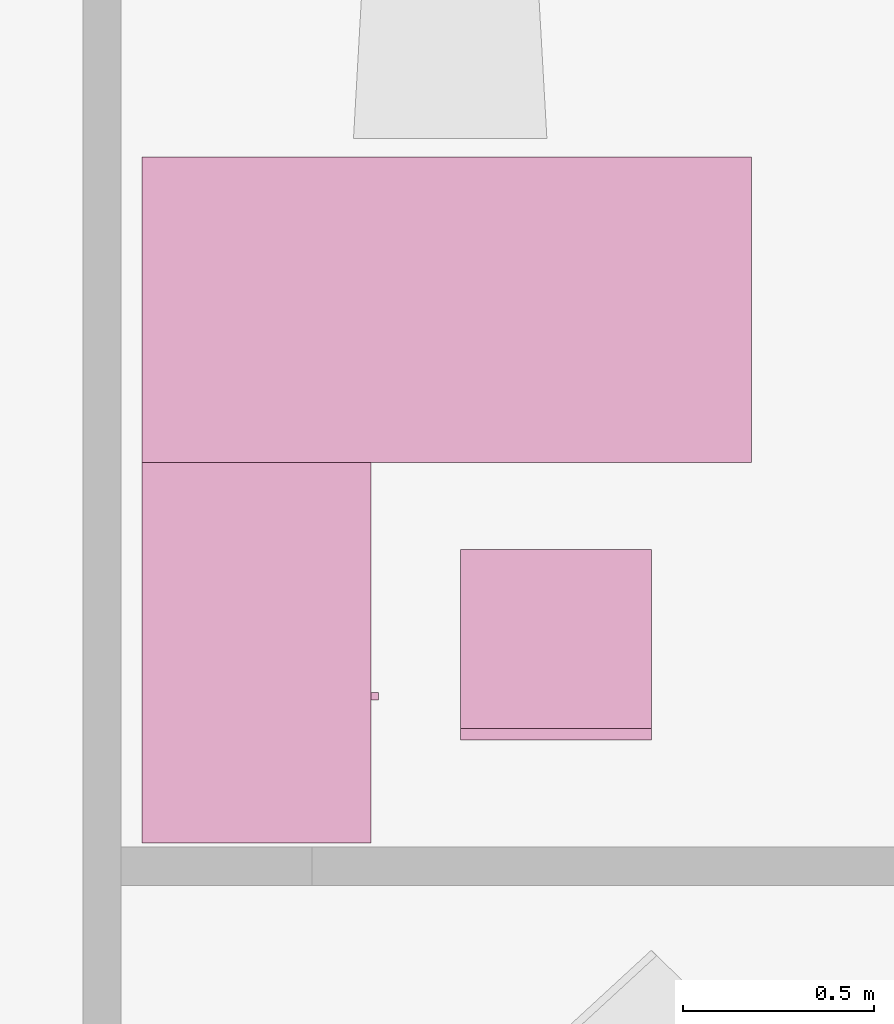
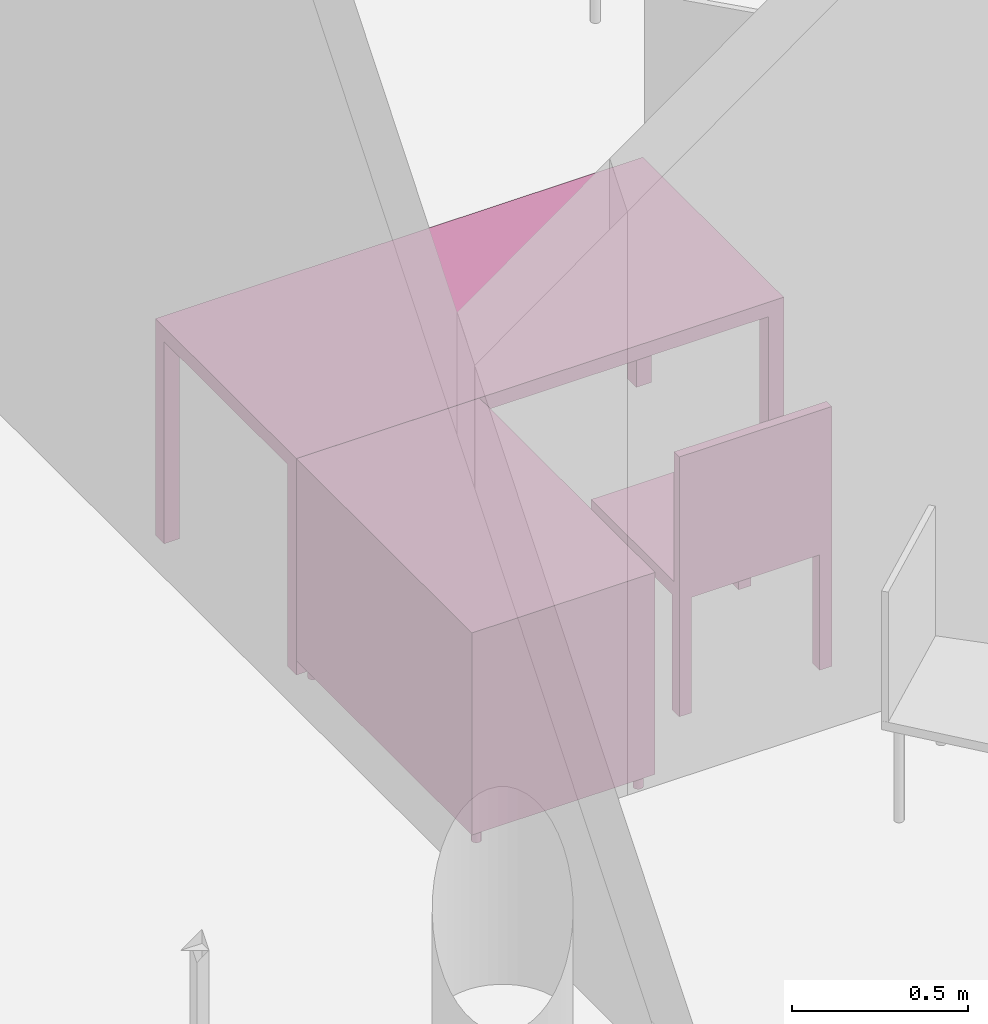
"""IFC4 building model written with IfcOpenShell, lengths in metres."""

import ifcopenshell
import ifcopenshell.guid

model = None  # the IFC model being written
_history = None  # IfcOwnerHistory: only IFC2X3 demands one
_inside = {}  # id of a spatial element -> (the spatial element, [elements in it])
_under = {}  # id of a project, library or spatial element -> (it, [spatial elements below it])
_declared = {}  # id of a project -> (the project, [libraries it declares])
_typed = {}  # id of a type object -> (the type object, [elements of that type])
_made_of = {}  # id of a material, layer set ... -> (it, [elements and type objects made of it])


def new_model(schema):
    """Start an empty IFC model of exactly this schema.

    Asked for "IFC4X3", IfcOpenShell would pick the latest addendum, in which some entities
    have other attributes; the version numbers below select the first issue.
    IFC2X3 requires an IfcOwnerHistory on every rooted entity: one is made here for all.
    """
    global model, _history
    if schema == "IFC4X3":
        model = ifcopenshell.file(schema_version=(4, 3, 0, 0))
    else:
        model = ifcopenshell.file(schema=schema)
    _inside.clear()
    _under.clear()
    _declared.clear()
    _typed.clear()
    _made_of.clear()
    _history = None
    if model.schema == "IFC2X3":
        org = make("IfcOrganization", Name="unknown")
        user = make(
            "IfcPersonAndOrganization",
            ThePerson=make("IfcPerson", FamilyName="unknown"),
            TheOrganization=org,
        )
        app = make(
            "IfcApplication",
            ApplicationDeveloper=org,
            Version="unknown",
            ApplicationFullName="unknown",
            ApplicationIdentifier="unknown",
        )
        _history = make(
            "IfcOwnerHistory",
            OwningUser=user,
            OwningApplication=app,
            ChangeAction="ADDED",
            CreationDate=0,
        )
    return model


def make(cls, **values):
    """One entity of the class cls with the attributes given. An attribute that is None is left unset."""
    return model.create_entity(
        cls, **{name: value for name, value in values.items() if value is not None}
    )


def entity(cls, *values):
    """Any entity or typed value of the class cls, its attributes in the order of the schema. None: left unset."""
    e = model.create_entity(cls)
    for i, value in enumerate(values):
        if value is not None:
            e[i] = value
    return e


def rooted(cls, **values):
    """An entity with a GlobalId (a new one), such as an element, a storey or a relation."""
    return make(cls, GlobalId=ifcopenshell.guid.new(), OwnerHistory=_history, **values)


def si_unit(unit_type, name, prefix=None):
    """IfcSIUnit, for example si_unit("LENGTHUNIT", "METRE", prefix="MILLI")."""
    return make("IfcSIUnit", UnitType=unit_type, Prefix=prefix, Name=name)


def converted_unit(unit_type, name, factor, base, dimensions=None, offset=None):
    """IfcConversionBasedUnit, such as the inch: factor (a typed value) times the base unit."""
    return make(
        "IfcConversionBasedUnit"
        if offset is None
        else "IfcConversionBasedUnitWithOffset",
        ConversionOffset=offset,
        Dimensions=None
        if dimensions is None
        else entity("IfcDimensionalExponents", *dimensions),
        UnitType=unit_type,
        Name=name,
        ConversionFactor=make(
            "IfcMeasureWithUnit", ValueComponent=factor, UnitComponent=base
        ),
    )


def derived_unit(unit_type, elements):
    """IfcDerivedUnit: a product of units, each with its exponent."""
    return make(
        "IfcDerivedUnit",
        Elements=[
            make("IfcDerivedUnitElement", Unit=unit, Exponent=power)
            for unit, power in elements
        ],
        UnitType=unit_type,
    )


def assignment(units):
    """IfcUnitAssignment: the units of a project."""
    return None if units is None else make("IfcUnitAssignment", Units=units)


def point(xyz):
    """IfcCartesianPoint."""
    return None if xyz is None else make("IfcCartesianPoint", Coordinates=xyz)


def direction(xyz):
    """IfcDirection."""
    return None if xyz is None else make("IfcDirection", DirectionRatios=xyz)


def frame(location, z_axis=None, x_axis=None):
    """IfcAxis2Placement3D, a coordinate frame: its origin and axes. An axis left out is left unset."""
    return make(
        "IfcAxis2Placement3D",
        Location=point(location),
        Axis=direction(z_axis),
        RefDirection=direction(x_axis),
    )


def origin():
    """The frame at (0, 0, 0) with its axes left unset."""
    return frame((0.0, 0.0, 0.0))


def place(relative_to, where):
    """IfcLocalPlacement: puts the frame where relative to a parent placement (None: the world)."""
    return make(
        "IfcLocalPlacement", PlacementRelTo=relative_to, RelativePlacement=where
    )


def context(
    kind, dimensions, precision=None, world=None, true_north=None, identifier=None
):
    """IfcGeometricRepresentationContext, for example the 3D "Model" context."""
    return make(
        "IfcGeometricRepresentationContext",
        ContextIdentifier=identifier,
        ContextType=kind,
        CoordinateSpaceDimension=dimensions,
        Precision=precision,
        WorldCoordinateSystem=world,
        TrueNorth=true_north,
    )


def subcontext(parent, identifier, kind, view, scale=None):
    """IfcGeometricRepresentationSubContext, for example "Body" below "Model"."""
    return make(
        "IfcGeometricRepresentationSubContext",
        ContextIdentifier=identifier,
        ContextType=kind,
        ParentContext=parent,
        TargetScale=scale,
        TargetView=view,
    )


def project(units=None, contexts=None):
    """IfcProject with its units and contexts."""
    return rooted(
        "IfcProject",
        Name="project",
        RepresentationContexts=contexts,
        UnitsInContext=assignment(units),
    )


def spatial(cls, under=None, at=None, **own):
    """A site, building, storey or space (cls), placed at a placement, below another one or the project."""
    s = rooted(cls, ObjectPlacement=at, **own)
    if under is not None:
        _under.setdefault(under.id(), (under, []))[1].append(s)
    return s


def faces_of(points, faces, orient=None, outer=None):
    """IfcFace entities. A face is a list of loops; a loop is a list of indices into points, from 0.

    orient and outer hold one flag for each loop. By default every Orientation is true, the
    first loop of a face is its IfcFaceOuterBound and the others are IfcFaceBound.
    """
    made = []
    for i, loops in enumerate(faces):
        bounds = []
        for j, loop in enumerate(loops):
            is_outer = j == 0 if outer is None else outer[i][j]
            bounds.append(
                make(
                    "IfcFaceOuterBound" if is_outer else "IfcFaceBound",
                    Bound=make("IfcPolyLoop", Polygon=[points[k] for k in loop]),
                    Orientation=True if orient is None else orient[i][j],
                )
            )
        made.append(make("IfcFace", Bounds=bounds))
    return made


def faceted_brep(points, faces, orient=None, outer=None, voids=None):
    """IfcFacetedBrep: a solid bounded by flat faces; with voids (closed shells), ...WithVoids."""
    shared = [point(p) for p in points]
    hull = make("IfcClosedShell", CfsFaces=faces_of(shared, faces, orient, outer))
    if voids is None:
        return make("IfcFacetedBrep", Outer=hull)
    return make(
        "IfcFacetedBrepWithVoids",
        Outer=hull,
        Voids=[
            make(cls, CfsFaces=faces_of(shared, fs, o, b)) for cls, fs, o, b in voids
        ],
    )


def shape(context_of_items, identifier, shape_type, items):
    """IfcShapeRepresentation: the items that make up one representation, for example the "Body"."""
    return make(
        "IfcShapeRepresentation",
        ContextOfItems=context_of_items,
        RepresentationIdentifier=identifier,
        RepresentationType=shape_type,
        Items=items,
    )


def made_of(thing, what):
    """Note that an element or type object is made of a material, layer set ...; save() writes the relation."""
    if what is not None:
        _made_of.setdefault(what.id(), (what, []))[1].append(thing)
    return thing


def element(
    cls,
    number,
    at=None,
    inside=None,
    cuts=None,
    type_object=None,
    material=None,
    context=None,
    identifier="Body",
    shape_type=None,
    held_by="IfcProductDefinitionShape",
    body=None,
    shapes=None,
    **own,
):
    """One element of the class cls, such as IfcWall. Its Tag is "e" and its number.

    at: its placement. inside: the storey or other place that contains it. cuts: it is an
    opening in that element (IfcRelVoidsElement). A single representation is given by context,
    identifier, shape_type and body (its items); several are given by shapes. held_by: the class
    of the entity that holds the representations. save() writes the other relations.
    """
    e = rooted(cls, Tag="e%d" % number, ObjectPlacement=at, **own)
    if body is not None:
        shapes = [shape(context, identifier, shape_type, body)]
    if shapes is not None:
        e.Representation = make(held_by, Representations=shapes)
    if inside is not None:
        _inside.setdefault(inside.id(), (inside, []))[1].append(e)
    if cuts is not None:
        rooted(
            "IfcRelVoidsElement", RelatingBuildingElement=cuts, RelatedOpeningElement=e
        )
    if type_object is not None:
        _typed.setdefault(type_object.id(), (type_object, []))[1].append(e)
    return made_of(e, material)


def aggregate(whole, parts):
    """IfcRelAggregates: a whole, such as a stair, and the parts it consists of."""
    return rooted("IfcRelAggregates", RelatingObject=whole, RelatedObjects=parts)


def save(model, path):
    """Write the relations noted so far, then the file.

    IfcRelAggregates (storeys below a building ...), IfcRelContainedInSpatialStructure (elements
    in a storey), IfcRelDefinesByType, IfcRelAssociatesMaterial and IfcRelDeclares: one each for
    every whole, place, type object, material and project.
    """
    for whole, parts in _under.values():
        aggregate(whole, parts)
    for where, things in _inside.values():
        rooted(
            "IfcRelContainedInSpatialStructure",
            RelatedElements=things,
            RelatingStructure=where,
        )
    for kind, things in _typed.values():
        rooted("IfcRelDefinesByType", RelatedObjects=things, RelatingType=kind)
    for what, things in _made_of.values():
        rooted("IfcRelAssociatesMaterial", RelatedObjects=things, RelatingMaterial=what)
    for by, libraries in _declared.values():
        rooted("IfcRelDeclares", RelatingContext=by, RelatedDefinitions=libraries)
    model.write(path)


model = new_model("IFC4")

# Units and contexts
model_context = context("Model", 3, precision=1e-05, world=origin())
body_context = subcontext(model_context, "Body", "Model", "MODEL_VIEW")
ifc_project = project(units=[si_unit("LENGTHUNIT", "METRE"), si_unit("AREAUNIT", "SQUARE_METRE"), si_unit("VOLUMEUNIT", "CUBIC_METRE"), si_unit("MASSUNIT", "GRAM", prefix="KILO"), converted_unit("PLANEANGLEUNIT", "DEGREE", entity("IfcPlaneAngleMeasure", 0.0174532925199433), si_unit("PLANEANGLEUNIT", "RADIAN"), dimensions=[0, 0, 0, 0, 0, 0, 0]), derived_unit("THERMALTRANSMITTANCEUNIT", [(si_unit("POWERUNIT", "WATT"), 1), (si_unit("THERMODYNAMICTEMPERATUREUNIT", "KELVIN"), -1), (si_unit("LENGTHUNIT", "METRE"), -2)]), derived_unit("VOLUMETRICFLOWRATEUNIT", [(si_unit("LENGTHUNIT", "METRE"), 3), (converted_unit("TIMEUNIT", "hour", entity("IfcTimeMeasure", 3600.0), si_unit("TIMEUNIT", "SECOND"), dimensions=[0, 0, 1, 0, 0, 0, 0]), -1), (si_unit("LENGTHUNIT", "METRE"), -1)])], contexts=[model_context])

# Building, storeys
building_placement = place(None, origin())
building = spatial("IfcBuilding", under=ifc_project, at=building_placement, Name="HABITATGE PLURIFAMILIAR", CompositionType="ELEMENT")
storey_1_placement = place(building_placement, frame((0.0, 0.0, 12.27)))
storey_1 = spatial("IfcBuildingStorey", under=building, at=storey_1_placement, Name="PLANTA TERCERA", CompositionType="ELEMENT", Elevation=12.27)
storey_2_placement = place(storey_1_placement, frame((0.0, 0.0, 9.26)))
storey_2 = spatial("IfcBuildingStorey", under=storey_1, at=storey_2_placement, Name="NOU", CompositionType="PARTIAL")

# Furniture
furniture_1_placement = place(storey_2_placement, frame((421.420628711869, 19.7128360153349, -9.3599999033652)))
element("IfcFurniture", 1, at=furniture_1_placement, inside=storey_2, Name="Taula 160X80_P3", context=body_context, shape_type="Brep", body=[
    faceted_brep([(1.546945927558, 0.750069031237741, 0.0), (1.596945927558, 0.750069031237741, 0.0), (1.596945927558, 0.800069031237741, 0.0), (1.546945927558, 0.800069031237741, 0.0), (1.546945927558, 0.800069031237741, 0.7), (1.596945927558, 0.800069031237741, 0.7), (1.596945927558, 0.750069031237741, 0.7), (1.546945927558, 0.750069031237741, 0.7)], [[[0, 1, 2, 3]], [[4, 5, 6, 7]], [[3, 4, 7, 0]], [[2, 5, 4, 3]], [[1, 6, 5, 2]], [[0, 7, 6, 1]]], orient=[[False], [False], [False], [False], [False], [False]]),
    faceted_brep([(1.546945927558, 0.0, 0.0), (1.596945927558, 0.0, 0.0), (1.596945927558, 0.05, 0.0), (1.546945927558, 0.05, 0.0), (1.546945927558, 0.05, 0.7), (1.596945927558, 0.05, 0.7), (1.596945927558, 0.0, 0.7), (1.546945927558, 0.0, 0.7)], [[[0, 1, 2, 3]], [[4, 5, 6, 7]], [[3, 4, 7, 0]], [[2, 5, 4, 3]], [[1, 6, 5, 2]], [[0, 7, 6, 1]]], orient=[[False], [False], [False], [False], [False], [False]]),
    faceted_brep([(0.0, 0.0, 0.7), (1.596945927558, 0.0, 0.7), (1.596945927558, 0.800069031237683, 0.7), (0.0, 0.800069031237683, 0.7), (0.0, 0.800069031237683, 0.75), (1.596945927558, 0.800069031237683, 0.75), (1.596945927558, 0.0, 0.75), (0.0, 0.0, 0.75)], [[[0, 1, 2, 3]], [[4, 5, 6, 7]], [[3, 4, 7, 0]], [[2, 5, 4, 3]], [[1, 6, 5, 2]], [[0, 7, 6, 1]]], orient=[[False], [False], [False], [False], [False], [False]]),
    faceted_brep([(0.0, 0.750069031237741, 0.0), (0.05, 0.750069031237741, 0.0), (0.05, 0.800069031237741, 0.0), (0.0, 0.800069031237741, 0.0), (0.0, 0.800069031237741, 0.7), (0.05, 0.800069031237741, 0.7), (0.05, 0.750069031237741, 0.7), (0.0, 0.750069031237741, 0.7)], [[[0, 1, 2, 3]], [[4, 5, 6, 7]], [[3, 4, 7, 0]], [[2, 5, 4, 3]], [[1, 6, 5, 2]], [[0, 7, 6, 1]]], orient=[[False], [False], [False], [False], [False], [False]]),
    faceted_brep([(0.0, 0.0, 0.0), (0.05, 0.0, 0.0), (0.05, 0.05, 0.0), (0.0, 0.05, 0.0), (0.0, 0.05, 0.7), (0.05, 0.05, 0.7), (0.05, 0.0, 0.7), (0.0, 0.0, 0.7)], [[[0, 1, 2, 3]], [[4, 5, 6, 7]], [[3, 4, 7, 0]], [[2, 5, 4, 3]], [[1, 6, 5, 2]], [[0, 7, 6, 1]]], orient=[[False], [False], [False], [False], [False], [False]]),
])
furniture_2_placement = place(storey_2_placement, frame((421.420628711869, 18.7168620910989, -9.3599999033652)))
element("IfcFurniture", 2, at=furniture_2_placement, inside=storey_2, Name="Taula 100X60_P3", context=body_context, shape_type="Brep", body=[
    faceted_brep([(0.0, 1.00000000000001, 0.05), (0.6, 1.00000000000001, 0.05), (0.6, 1.00000000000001, 0.07), (0.0, 1.00000000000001, 0.07), (0.6, 0.0, 0.05), (0.6, 0.0, 0.07), (0.0, 0.0, 0.05), (0.0, 0.0, 0.07)], [[[0, 1, 2, 3]], [[1, 4, 5, 2]], [[4, 6, 7, 5]], [[6, 0, 3, 7]], [[0, 6, 4, 1]], [[3, 2, 5, 7]]], orient=[[False], [False], [False], [False], [False], [False]]),
    faceted_brep([(0.58, 1.00000000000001, 0.35), (0.0, 1.00000000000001, 0.35), (0.0, 0.0, 0.35), (0.58, 0.0, 0.35), (0.0, 1.00000000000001, 0.37), (0.58, 1.00000000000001, 0.37), (0.58, 0.0, 0.37), (0.0, 0.0, 0.37)], [[[0, 1, 2, 3]], [[4, 5, 6, 7]], [[1, 0, 5, 4]], [[2, 1, 4, 7]], [[3, 2, 7, 6]], [[0, 3, 6, 5]]], orient=[[False], [False], [False], [False], [False], [False]]),
    faceted_brep([(0.58, 0.490000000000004, 0.75), (0.58, 0.490000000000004, 0.05), (0.6, 0.490000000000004, 0.05), (0.6, 0.490000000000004, 0.75), (0.58, 0.0, 0.05), (0.6, 0.0, 0.05), (0.58, 0.0, 0.75), (0.6, 0.0, 0.75)], [[[0, 1, 2, 3]], [[1, 4, 5, 2]], [[4, 6, 7, 5]], [[6, 0, 3, 7]], [[0, 6, 4, 1]], [[3, 2, 5, 7]]], orient=[[False], [False], [False], [False], [False], [False]]),
    faceted_brep([(0.0, 0.98, 0.75), (0.0, 0.98, 0.0499999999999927), (0.0, 1.0, 0.0499999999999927), (0.0, 1.0, 0.75), (0.6, 0.980000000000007, 0.05), (0.6, 1.00000000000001, 0.05), (0.6, 0.980000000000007, 0.75), (0.6, 1.00000000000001, 0.75)], [[[0, 1, 2, 3]], [[1, 4, 5, 2]], [[4, 6, 7, 5]], [[6, 0, 3, 7]], [[0, 6, 4, 1]], [[3, 2, 5, 7]]], orient=[[False], [False], [False], [False], [False], [False]]),
    faceted_brep([(0.0, 0.47, 0.75), (0.0, 0.47, 0.0499999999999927), (0.0, 0.49, 0.0499999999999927), (0.0, 0.49, 0.75), (0.6, 0.470000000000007, 0.05), (0.6, 0.490000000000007, 0.05), (0.6, 0.470000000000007, 0.75), (0.6, 0.490000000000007, 0.75)], [[[0, 1, 2, 3]], [[1, 4, 5, 2]], [[4, 6, 7, 5]], [[6, 0, 3, 7]], [[0, 6, 4, 1]], [[3, 2, 5, 7]]], orient=[[False], [False], [False], [False], [False], [False]]),
    faceted_brep([(0.0, 0.47, 0.750000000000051), (0.0, 0.47, 0.0499999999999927), (0.0, 0.490000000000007, 0.0499999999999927), (0.0, 0.490000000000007, 0.750000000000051), (0.579999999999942, 0.469999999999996, 0.0499999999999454), (0.579999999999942, 0.490000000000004, 0.0499999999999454), (0.58, 0.469999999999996, 0.750000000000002), (0.58, 0.490000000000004, 0.750000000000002)], [[[0, 1, 2, 3]], [[1, 4, 5, 2]], [[4, 6, 7, 5]], [[6, 0, 3, 7]], [[0, 6, 4, 1]], [[3, 2, 5, 7]]], orient=[[False], [False], [False], [False], [False], [False]]),
    faceted_brep([(0.0, 0.0, 0.75), (0.0, 0.0, 0.0499999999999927), (0.0, 0.02, 0.0499999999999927), (0.0, 0.02, 0.75), (0.6, 0.0, 0.05), (0.6, 0.0200000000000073, 0.05), (0.6, 0.0, 0.75), (0.6, 0.0200000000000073, 0.75)], [[[0, 1, 2, 3]], [[1, 4, 5, 2]], [[4, 6, 7, 5]], [[6, 0, 3, 7]], [[0, 6, 4, 1]], [[3, 2, 5, 7]]], orient=[[False], [False], [False], [False], [False], [False]]),
    faceted_brep([(0.0, 1.00000000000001, 0.73), (0.6, 1.00000000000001, 0.73), (0.6, 1.00000000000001, 0.75), (0.0, 1.00000000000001, 0.75), (0.6, 0.0, 0.73), (0.6, 0.0, 0.75), (0.0, 0.0, 0.73), (0.0, 0.0, 0.75)], [[[0, 1, 2, 3]], [[1, 4, 5, 2]], [[4, 6, 7, 5]], [[6, 0, 3, 7]], [[0, 6, 4, 1]], [[3, 2, 5, 7]]], orient=[[False], [False], [False], [False], [False], [False]]),
    faceted_brep([(0.0, 0.980000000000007, 0.75), (0.0, 0.980000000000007, 0.05), (0.02, 0.980000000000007, 0.05), (0.02, 0.980000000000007, 0.75), (0.0, 0.0, 0.05), (0.02, 0.0, 0.05), (0.0, 0.0, 0.75), (0.02, 0.0, 0.75)], [[[0, 1, 2, 3]], [[1, 4, 5, 2]], [[4, 6, 7, 5]], [[6, 0, 3, 7]], [[0, 6, 4, 1]], [[3, 2, 5, 7]]], orient=[[False], [False], [False], [False], [False], [False]]),
    faceted_brep([(0.6, 0.374420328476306, 0.35), (0.62, 0.374420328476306, 0.35), (0.62, 0.394420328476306, 0.35), (0.6, 0.394420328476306, 0.35), (0.6, 0.394420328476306, 0.45), (0.62, 0.394420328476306, 0.45), (0.62, 0.374420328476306, 0.45), (0.6, 0.374420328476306, 0.45)], [[[0, 1, 2, 3]], [[4, 5, 6, 7]], [[3, 4, 7, 0]], [[2, 5, 4, 3]], [[1, 6, 5, 2]], [[0, 7, 6, 1]]], orient=[[False], [False], [False], [False], [False], [False]]),
    faceted_brep([(0.0361788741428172, 0.950063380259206, 0.0), (0.038772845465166, 0.950290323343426, 0.0), (0.0412880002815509, 0.950964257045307, 0.0), (0.0436479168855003, 0.952064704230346, 0.0), (0.0457808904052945, 0.953558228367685, 0.0), (0.0476221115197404, 0.95539944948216, 0.0), (0.0491156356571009, 0.957532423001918, 0.0), (0.0502160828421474, 0.959892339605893, 0.0), (0.0508900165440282, 0.962407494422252, 0.0), (0.0511169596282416, 0.96500146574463, 0.0), (0.0508900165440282, 0.967595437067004, 0.0), (0.0502160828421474, 0.970110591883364, 0.0), (0.0491156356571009, 0.972470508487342, 0.0), (0.0476221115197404, 0.974603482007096, 0.0), (0.0457808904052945, 0.976444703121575, 0.0), (0.0436479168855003, 0.977938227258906, 0.0), (0.0412880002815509, 0.979038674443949, 0.0), (0.038772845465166, 0.979712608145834, 0.0), (0.0361788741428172, 0.979939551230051, 0.0), (0.0335849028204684, 0.979712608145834, 0.0), (0.0310697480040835, 0.979038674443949, 0.0), (0.0287098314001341, 0.977938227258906, 0.0), (0.02657685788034, 0.976444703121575, 0.0), (0.024735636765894, 0.974603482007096, 0.0), (0.0232421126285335, 0.972470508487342, 0.0), (0.022141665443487, 0.970110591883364, 0.0), (0.0214677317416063, 0.967595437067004, 0.0), (0.0212407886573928, 0.96500146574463, 0.0), (0.0214677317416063, 0.962407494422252, 0.0), (0.022141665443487, 0.959892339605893, 0.0), (0.0232421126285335, 0.957532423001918, 0.0), (0.024735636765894, 0.95539944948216, 0.0), (0.02657685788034, 0.953558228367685, 0.0), (0.0287098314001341, 0.952064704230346, 0.0), (0.0310697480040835, 0.950964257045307, 0.0), (0.0335849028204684, 0.950290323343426, 0.0), (0.0361788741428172, 0.950063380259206, 0.05), (0.0335849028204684, 0.950290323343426, 0.05), (0.0310697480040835, 0.950964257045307, 0.05), (0.0287098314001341, 0.952064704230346, 0.05), (0.02657685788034, 0.953558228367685, 0.05), (0.024735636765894, 0.95539944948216, 0.05), (0.0232421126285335, 0.957532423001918, 0.05), (0.022141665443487, 0.959892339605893, 0.05), (0.0214677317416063, 0.962407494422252, 0.05), (0.0212407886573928, 0.96500146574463, 0.05), (0.0214677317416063, 0.967595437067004, 0.05), (0.022141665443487, 0.970110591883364, 0.05), (0.0232421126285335, 0.972470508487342, 0.05), (0.024735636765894, 0.974603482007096, 0.05), (0.02657685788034, 0.976444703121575, 0.05), (0.0287098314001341, 0.977938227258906, 0.05), (0.0310697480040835, 0.979038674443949, 0.05), (0.0335849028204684, 0.979712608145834, 0.05), (0.0361788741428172, 0.979939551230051, 0.05), (0.038772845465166, 0.979712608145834, 0.05), (0.0412880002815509, 0.979038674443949, 0.05), (0.0436479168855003, 0.977938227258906, 0.05), (0.0457808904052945, 0.976444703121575, 0.05), (0.0476221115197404, 0.974603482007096, 0.05), (0.0491156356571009, 0.972470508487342, 0.05), (0.0502160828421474, 0.970110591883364, 0.05), (0.0508900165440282, 0.967595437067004, 0.05), (0.0511169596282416, 0.96500146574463, 0.05), (0.0508900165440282, 0.962407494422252, 0.05), (0.0502160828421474, 0.959892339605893, 0.05), (0.0491156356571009, 0.957532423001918, 0.05), (0.0476221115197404, 0.95539944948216, 0.05), (0.0457808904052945, 0.953558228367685, 0.05), (0.0436479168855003, 0.952064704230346, 0.05), (0.0412880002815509, 0.950964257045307, 0.05), (0.038772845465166, 0.950290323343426, 0.05)], [[[0, 1, 2, 3, 4, 5, 6, 7, 8, 9, 10, 11, 12, 13, 14, 15, 16, 17, 18, 19, 20, 21, 22, 23, 24, 25, 26, 27, 28, 29, 30, 31, 32, 33, 34, 35]], [[36, 37, 38, 39, 40, 41, 42, 43, 44, 45, 46, 47, 48, 49, 50, 51, 52, 53, 54, 55, 56, 57, 58, 59, 60, 61, 62, 63, 64, 65, 66, 67, 68, 69, 70, 71]], [[1, 0, 36, 71]], [[2, 1, 71, 70]], [[3, 2, 70, 69]], [[4, 3, 69, 68]], [[5, 4, 68, 67]], [[6, 5, 67, 66]], [[7, 6, 66, 65]], [[8, 7, 65, 64]], [[9, 8, 64, 63]], [[10, 9, 63, 62]], [[11, 10, 62, 61]], [[12, 11, 61, 60]], [[13, 12, 60, 59]], [[14, 13, 59, 58]], [[15, 14, 58, 57]], [[16, 15, 57, 56]], [[17, 16, 56, 55]], [[18, 17, 55, 54]], [[19, 18, 54, 53]], [[20, 19, 53, 52]], [[21, 20, 52, 51]], [[22, 21, 51, 50]], [[23, 22, 50, 49]], [[24, 23, 49, 48]], [[25, 24, 48, 47]], [[26, 25, 47, 46]], [[27, 26, 46, 45]], [[28, 27, 45, 44]], [[29, 28, 44, 43]], [[30, 29, 43, 42]], [[31, 30, 42, 41]], [[32, 31, 41, 40]], [[33, 32, 40, 39]], [[34, 33, 39, 38]], [[35, 34, 38, 37]], [[0, 35, 37, 36]]], orient=[[False], [False], [False], [False], [False], [False], [False], [False], [False], [False], [False], [False], [False], [False], [False], [False], [False], [False], [False], [False], [False], [False], [False], [False], [False], [False], [False], [False], [False], [False], [False], [False], [False], [False], [False], [False], [False], [False]]),
    faceted_brep([(0.566178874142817, 0.950063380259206, 0.0), (0.568772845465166, 0.950290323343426, 0.0), (0.571288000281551, 0.950964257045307, 0.0), (0.5736479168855, 0.95206470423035, 0.0), (0.575780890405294, 0.953558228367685, 0.0), (0.57762211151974, 0.95539944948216, 0.0), (0.579115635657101, 0.957532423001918, 0.0), (0.580216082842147, 0.959892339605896, 0.0), (0.580890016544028, 0.962407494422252, 0.0), (0.581116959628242, 0.96500146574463, 0.0), (0.580890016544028, 0.967595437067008, 0.0), (0.580216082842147, 0.970110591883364, 0.0), (0.579115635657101, 0.972470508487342, 0.0), (0.57762211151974, 0.9746034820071, 0.0), (0.575780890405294, 0.976444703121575, 0.0), (0.5736479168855, 0.97793822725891, 0.0), (0.571288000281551, 0.979038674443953, 0.0), (0.568772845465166, 0.979712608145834, 0.0), (0.566178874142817, 0.979939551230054, 0.0), (0.563584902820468, 0.979712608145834, 0.0), (0.561069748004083, 0.979038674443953, 0.0), (0.558709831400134, 0.97793822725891, 0.0), (0.55657685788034, 0.976444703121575, 0.0), (0.554735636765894, 0.9746034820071, 0.0), (0.553242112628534, 0.972470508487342, 0.0), (0.552141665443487, 0.970110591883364, 0.0), (0.551467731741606, 0.967595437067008, 0.0), (0.551240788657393, 0.96500146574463, 0.0), (0.551467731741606, 0.962407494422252, 0.0), (0.552141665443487, 0.959892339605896, 0.0), (0.553242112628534, 0.957532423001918, 0.0), (0.554735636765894, 0.95539944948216, 0.0), (0.55657685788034, 0.953558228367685, 0.0), (0.558709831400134, 0.95206470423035, 0.0), (0.561069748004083, 0.950964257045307, 0.0), (0.563584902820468, 0.950290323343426, 0.0), (0.566178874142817, 0.950063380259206, 0.05), (0.563584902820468, 0.950290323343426, 0.05), (0.561069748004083, 0.950964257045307, 0.05), (0.558709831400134, 0.95206470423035, 0.05), (0.55657685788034, 0.953558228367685, 0.05), (0.554735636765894, 0.95539944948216, 0.05), (0.553242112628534, 0.957532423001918, 0.05), (0.552141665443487, 0.959892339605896, 0.05), (0.551467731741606, 0.962407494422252, 0.05), (0.551240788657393, 0.96500146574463, 0.05), (0.551467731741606, 0.967595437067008, 0.05), (0.552141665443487, 0.970110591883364, 0.05), (0.553242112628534, 0.972470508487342, 0.05), (0.554735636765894, 0.9746034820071, 0.05), (0.55657685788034, 0.976444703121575, 0.05), (0.558709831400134, 0.97793822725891, 0.05), (0.561069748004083, 0.979038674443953, 0.05), (0.563584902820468, 0.979712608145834, 0.05), (0.566178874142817, 0.979939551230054, 0.05), (0.568772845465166, 0.979712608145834, 0.05), (0.571288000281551, 0.979038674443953, 0.05), (0.5736479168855, 0.97793822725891, 0.05), (0.575780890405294, 0.976444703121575, 0.05), (0.57762211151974, 0.9746034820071, 0.05), (0.579115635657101, 0.972470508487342, 0.05), (0.580216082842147, 0.970110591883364, 0.05), (0.580890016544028, 0.967595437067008, 0.05), (0.581116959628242, 0.96500146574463, 0.05), (0.580890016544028, 0.962407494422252, 0.05), (0.580216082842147, 0.959892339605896, 0.05), (0.579115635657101, 0.957532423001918, 0.05), (0.57762211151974, 0.95539944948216, 0.05), (0.575780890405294, 0.953558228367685, 0.05), (0.5736479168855, 0.95206470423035, 0.05), (0.571288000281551, 0.950964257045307, 0.05), (0.568772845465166, 0.950290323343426, 0.05)], [[[0, 1, 2, 3, 4, 5, 6, 7, 8, 9, 10, 11, 12, 13, 14, 15, 16, 17, 18, 19, 20, 21, 22, 23, 24, 25, 26, 27, 28, 29, 30, 31, 32, 33, 34, 35]], [[36, 37, 38, 39, 40, 41, 42, 43, 44, 45, 46, 47, 48, 49, 50, 51, 52, 53, 54, 55, 56, 57, 58, 59, 60, 61, 62, 63, 64, 65, 66, 67, 68, 69, 70, 71]], [[1, 0, 36, 71]], [[2, 1, 71, 70]], [[3, 2, 70, 69]], [[4, 3, 69, 68]], [[5, 4, 68, 67]], [[6, 5, 67, 66]], [[7, 6, 66, 65]], [[8, 7, 65, 64]], [[9, 8, 64, 63]], [[10, 9, 63, 62]], [[11, 10, 62, 61]], [[12, 11, 61, 60]], [[13, 12, 60, 59]], [[14, 13, 59, 58]], [[15, 14, 58, 57]], [[16, 15, 57, 56]], [[17, 16, 56, 55]], [[18, 17, 55, 54]], [[19, 18, 54, 53]], [[20, 19, 53, 52]], [[21, 20, 52, 51]], [[22, 21, 51, 50]], [[23, 22, 50, 49]], [[24, 23, 49, 48]], [[25, 24, 48, 47]], [[26, 25, 47, 46]], [[27, 26, 46, 45]], [[28, 27, 45, 44]], [[29, 28, 44, 43]], [[30, 29, 43, 42]], [[31, 30, 42, 41]], [[32, 31, 41, 40]], [[33, 32, 40, 39]], [[34, 33, 39, 38]], [[35, 34, 38, 37]], [[0, 35, 37, 36]]], orient=[[False], [False], [False], [False], [False], [False], [False], [False], [False], [False], [False], [False], [False], [False], [False], [False], [False], [False], [False], [False], [False], [False], [False], [False], [False], [False], [False], [False], [False], [False], [False], [False], [False], [False], [False], [False], [False], [False]]),
    faceted_brep([(0.564999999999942, 0.0200170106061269, 0.0), (0.567593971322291, 0.0202439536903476, 0.0), (0.570109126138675, 0.0209178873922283, 0.0), (0.572469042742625, 0.0220183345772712, 0.0), (0.574602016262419, 0.0235118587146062, 0.0), (0.576443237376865, 0.0253530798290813, 0.0), (0.577936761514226, 0.0274860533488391, 0.0), (0.579037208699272, 0.0298459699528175, 0.0), (0.579711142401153, 0.0323611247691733, 0.0), (0.579938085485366, 0.0349550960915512, 0.0), (0.579711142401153, 0.0375490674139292, 0.0), (0.579037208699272, 0.0400642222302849, 0.0), (0.577936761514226, 0.0424241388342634, 0.0), (0.576443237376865, 0.0445571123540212, 0.0), (0.574602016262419, 0.0463983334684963, 0.0), (0.572469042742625, 0.0478918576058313, 0.0), (0.570109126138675, 0.0489923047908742, 0.0), (0.567593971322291, 0.0496662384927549, 0.0), (0.564999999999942, 0.0498931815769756, 0.0), (0.562406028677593, 0.0496662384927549, 0.0), (0.559890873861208, 0.0489923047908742, 0.0), (0.557530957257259, 0.0478918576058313, 0.0), (0.555397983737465, 0.0463983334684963, 0.0), (0.553556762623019, 0.0445571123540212, 0.0), (0.552063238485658, 0.0424241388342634, 0.0), (0.550962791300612, 0.0400642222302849, 0.0), (0.550288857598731, 0.0375490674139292, 0.0), (0.550061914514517, 0.0349550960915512, 0.0), (0.550288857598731, 0.0323611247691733, 0.0), (0.550962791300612, 0.0298459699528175, 0.0), (0.552063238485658, 0.0274860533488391, 0.0), (0.553556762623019, 0.0253530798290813, 0.0), (0.555397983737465, 0.0235118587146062, 0.0), (0.557530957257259, 0.0220183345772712, 0.0), (0.559890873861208, 0.0209178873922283, 0.0), (0.562406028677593, 0.0202439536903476, 0.0), (0.564999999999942, 0.0200170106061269, 0.05), (0.562406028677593, 0.0202439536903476, 0.05), (0.559890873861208, 0.0209178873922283, 0.05), (0.557530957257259, 0.0220183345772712, 0.05), (0.555397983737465, 0.0235118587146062, 0.05), (0.553556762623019, 0.0253530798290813, 0.05), (0.552063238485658, 0.0274860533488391, 0.05), (0.550962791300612, 0.0298459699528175, 0.05), (0.550288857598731, 0.0323611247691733, 0.05), (0.550061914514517, 0.0349550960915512, 0.05), (0.550288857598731, 0.0375490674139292, 0.05), (0.550962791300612, 0.0400642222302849, 0.05), (0.552063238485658, 0.0424241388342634, 0.05), (0.553556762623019, 0.0445571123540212, 0.05), (0.555397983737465, 0.0463983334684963, 0.05), (0.557530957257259, 0.0478918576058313, 0.05), (0.559890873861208, 0.0489923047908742, 0.05), (0.562406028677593, 0.0496662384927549, 0.05), (0.564999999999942, 0.0498931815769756, 0.05), (0.567593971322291, 0.0496662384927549, 0.05), (0.570109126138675, 0.0489923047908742, 0.05), (0.572469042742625, 0.0478918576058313, 0.05), (0.574602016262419, 0.0463983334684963, 0.05), (0.576443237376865, 0.0445571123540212, 0.05), (0.577936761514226, 0.0424241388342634, 0.05), (0.579037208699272, 0.0400642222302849, 0.05), (0.579711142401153, 0.0375490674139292, 0.05), (0.579938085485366, 0.0349550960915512, 0.05), (0.579711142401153, 0.0323611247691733, 0.05), (0.579037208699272, 0.0298459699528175, 0.05), (0.577936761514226, 0.0274860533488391, 0.05), (0.576443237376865, 0.0253530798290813, 0.05), (0.574602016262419, 0.0235118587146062, 0.05), (0.572469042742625, 0.0220183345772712, 0.05), (0.570109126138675, 0.0209178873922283, 0.05), (0.567593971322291, 0.0202439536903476, 0.05)], [[[0, 1, 2, 3, 4, 5, 6, 7, 8, 9, 10, 11, 12, 13, 14, 15, 16, 17, 18, 19, 20, 21, 22, 23, 24, 25, 26, 27, 28, 29, 30, 31, 32, 33, 34, 35]], [[36, 37, 38, 39, 40, 41, 42, 43, 44, 45, 46, 47, 48, 49, 50, 51, 52, 53, 54, 55, 56, 57, 58, 59, 60, 61, 62, 63, 64, 65, 66, 67, 68, 69, 70, 71]], [[1, 0, 36, 71]], [[2, 1, 71, 70]], [[3, 2, 70, 69]], [[4, 3, 69, 68]], [[5, 4, 68, 67]], [[6, 5, 67, 66]], [[7, 6, 66, 65]], [[8, 7, 65, 64]], [[9, 8, 64, 63]], [[10, 9, 63, 62]], [[11, 10, 62, 61]], [[12, 11, 61, 60]], [[13, 12, 60, 59]], [[14, 13, 59, 58]], [[15, 14, 58, 57]], [[16, 15, 57, 56]], [[17, 16, 56, 55]], [[18, 17, 55, 54]], [[19, 18, 54, 53]], [[20, 19, 53, 52]], [[21, 20, 52, 51]], [[22, 21, 51, 50]], [[23, 22, 50, 49]], [[24, 23, 49, 48]], [[25, 24, 48, 47]], [[26, 25, 47, 46]], [[27, 26, 46, 45]], [[28, 27, 45, 44]], [[29, 28, 44, 43]], [[30, 29, 43, 42]], [[31, 30, 42, 41]], [[32, 31, 41, 40]], [[33, 32, 40, 39]], [[34, 33, 39, 38]], [[35, 34, 38, 37]], [[0, 35, 37, 36]]], orient=[[False], [False], [False], [False], [False], [False], [False], [False], [False], [False], [False], [False], [False], [False], [False], [False], [False], [False], [False], [False], [False], [False], [False], [False], [False], [False], [False], [False], [False], [False], [False], [False], [False], [False], [False], [False], [False], [False]]),
    faceted_brep([(0.0349662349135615, 0.0203520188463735, 0.0), (0.0375602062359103, 0.0205789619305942, 0.0), (0.0400753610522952, 0.021252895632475, 0.0), (0.0424352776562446, 0.0223533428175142, 0.0), (0.0445682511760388, 0.0238468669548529, 0.0), (0.0464094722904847, 0.0256880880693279, 0.0), (0.0479029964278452, 0.0278210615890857, 0.0), (0.0490034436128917, 0.0301809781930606, 0.0), (0.0496773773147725, 0.03269613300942, 0.0), (0.0499043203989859, 0.0352901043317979, 0.0), (0.0496773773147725, 0.0378840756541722, 0.0), (0.0490034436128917, 0.0403992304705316, 0.0), (0.0479029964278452, 0.0427591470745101, 0.0), (0.0464094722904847, 0.0448921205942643, 0.0), (0.0445682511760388, 0.046733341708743, 0.0), (0.0424352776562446, 0.0482268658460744, 0.0), (0.0400753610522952, 0.0493273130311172, 0.0), (0.0375602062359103, 0.0500012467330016, 0.0), (0.0349662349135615, 0.0502281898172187, 0.0), (0.0323722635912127, 0.0500012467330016, 0.0), (0.0298571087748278, 0.0493273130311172, 0.0), (0.0274971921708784, 0.0482268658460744, 0.0), (0.0253642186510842, 0.046733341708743, 0.0), (0.0235229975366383, 0.0448921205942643, 0.0), (0.0220294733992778, 0.0427591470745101, 0.0), (0.0209290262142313, 0.0403992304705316, 0.0), (0.0202550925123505, 0.0378840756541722, 0.0), (0.0200281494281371, 0.0352901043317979, 0.0), (0.0202550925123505, 0.03269613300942, 0.0), (0.0209290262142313, 0.0301809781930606, 0.0), (0.0220294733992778, 0.0278210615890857, 0.0), (0.0235229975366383, 0.0256880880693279, 0.0), (0.0253642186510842, 0.0238468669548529, 0.0), (0.0274971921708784, 0.0223533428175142, 0.0), (0.0298571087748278, 0.021252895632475, 0.0), (0.0323722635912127, 0.0205789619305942, 0.0), (0.0349662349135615, 0.0203520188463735, 0.05), (0.0323722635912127, 0.0205789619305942, 0.05), (0.0298571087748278, 0.021252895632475, 0.05), (0.0274971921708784, 0.0223533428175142, 0.05), (0.0253642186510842, 0.0238468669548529, 0.05), (0.0235229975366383, 0.0256880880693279, 0.05), (0.0220294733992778, 0.0278210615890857, 0.05), (0.0209290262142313, 0.0301809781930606, 0.05), (0.0202550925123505, 0.03269613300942, 0.05), (0.0200281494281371, 0.0352901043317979, 0.05), (0.0202550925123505, 0.0378840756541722, 0.05), (0.0209290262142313, 0.0403992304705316, 0.05), (0.0220294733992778, 0.0427591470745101, 0.05), (0.0235229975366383, 0.0448921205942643, 0.05), (0.0253642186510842, 0.046733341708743, 0.05), (0.0274971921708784, 0.0482268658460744, 0.05), (0.0298571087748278, 0.0493273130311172, 0.05), (0.0323722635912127, 0.0500012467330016, 0.05), (0.0349662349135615, 0.0502281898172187, 0.05), (0.0375602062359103, 0.0500012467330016, 0.05), (0.0400753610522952, 0.0493273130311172, 0.05), (0.0424352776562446, 0.0482268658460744, 0.05), (0.0445682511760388, 0.046733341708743, 0.05), (0.0464094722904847, 0.0448921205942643, 0.05), (0.0479029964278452, 0.0427591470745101, 0.05), (0.0490034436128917, 0.0403992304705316, 0.05), (0.0496773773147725, 0.0378840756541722, 0.05), (0.0499043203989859, 0.0352901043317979, 0.05), (0.0496773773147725, 0.03269613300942, 0.05), (0.0490034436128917, 0.0301809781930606, 0.05), (0.0479029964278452, 0.0278210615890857, 0.05), (0.0464094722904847, 0.0256880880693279, 0.05), (0.0445682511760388, 0.0238468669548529, 0.05), (0.0424352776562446, 0.0223533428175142, 0.05), (0.0400753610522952, 0.021252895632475, 0.05), (0.0375602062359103, 0.0205789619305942, 0.05)], [[[0, 1, 2, 3, 4, 5, 6, 7, 8, 9, 10, 11, 12, 13, 14, 15, 16, 17, 18, 19, 20, 21, 22, 23, 24, 25, 26, 27, 28, 29, 30, 31, 32, 33, 34, 35]], [[36, 37, 38, 39, 40, 41, 42, 43, 44, 45, 46, 47, 48, 49, 50, 51, 52, 53, 54, 55, 56, 57, 58, 59, 60, 61, 62, 63, 64, 65, 66, 67, 68, 69, 70, 71]], [[1, 0, 36, 71]], [[2, 1, 71, 70]], [[3, 2, 70, 69]], [[4, 3, 69, 68]], [[5, 4, 68, 67]], [[6, 5, 67, 66]], [[7, 6, 66, 65]], [[8, 7, 65, 64]], [[9, 8, 64, 63]], [[10, 9, 63, 62]], [[11, 10, 62, 61]], [[12, 11, 61, 60]], [[13, 12, 60, 59]], [[14, 13, 59, 58]], [[15, 14, 58, 57]], [[16, 15, 57, 56]], [[17, 16, 56, 55]], [[18, 17, 55, 54]], [[19, 18, 54, 53]], [[20, 19, 53, 52]], [[21, 20, 52, 51]], [[22, 21, 51, 50]], [[23, 22, 50, 49]], [[24, 23, 49, 48]], [[25, 24, 48, 47]], [[26, 25, 47, 46]], [[27, 26, 46, 45]], [[28, 27, 45, 44]], [[29, 28, 44, 43]], [[30, 29, 43, 42]], [[31, 30, 42, 41]], [[32, 31, 41, 40]], [[33, 32, 40, 39]], [[34, 33, 39, 38]], [[35, 34, 38, 37]], [[0, 35, 37, 36]]], orient=[[False], [False], [False], [False], [False], [False], [False], [False], [False], [False], [False], [False], [False], [False], [False], [False], [False], [False], [False], [False], [False], [False], [False], [False], [False], [False], [False], [False], [False], [False], [False], [False], [False], [False], [False], [False], [False], [False]]),
])
furniture_3_placement = place(storey_2_placement, frame((422.255501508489, 18.9857722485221, -9.35590342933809)))
element("IfcFurniture", 3, at=furniture_3_placement, inside=storey_2, Name="Cadira d'Oficina_P3", context=body_context, shape_type="Brep", body=[
    faceted_brep([(0.5, 0.500000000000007, 0.4), (0.0, 0.500000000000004, 0.4), (0.0, 0.0, 0.4), (0.5, 0.0, 0.4), (0.5, 0.0, 0.45), (0.0, 0.0, 0.45), (0.0, 0.500000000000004, 0.45), (0.5, 0.500000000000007, 0.45)], [[[0, 1, 2, 3]], [[4, 5, 6, 7]], [[3, 4, 7, 0]], [[2, 5, 4, 3]], [[1, 6, 5, 2]], [[0, 7, 6, 1]]], orient=[[False], [False], [False], [False], [False], [False]]),
    faceted_brep([(0.0, 0.04, 0.0), (0.0, 0.0, 0.0), (0.04, 0.0, 0.0), (0.04, 0.04, 0.0), (0.04, 0.04, 0.4), (0.04, 0.0, 0.4), (0.0, 0.0, 0.4), (0.0, 0.04, 0.4)], [[[0, 1, 2, 3]], [[4, 5, 6, 7]], [[3, 4, 7, 0]], [[2, 5, 4, 3]], [[1, 6, 5, 2]], [[0, 7, 6, 1]]], orient=[[False], [False], [False], [False], [False], [False]]),
    faceted_brep([(0.0, 0.500000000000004, 0.0), (0.0, 0.460000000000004, 0.0), (0.04, 0.460000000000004, 0.0), (0.04, 0.500000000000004, 0.0), (0.04, 0.500000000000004, 0.4), (0.04, 0.460000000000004, 0.4), (0.0, 0.460000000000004, 0.4), (0.0, 0.500000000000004, 0.4)], [[[0, 1, 2, 3]], [[4, 5, 6, 7]], [[3, 4, 7, 0]], [[2, 5, 4, 3]], [[1, 6, 5, 2]], [[0, 7, 6, 1]]], orient=[[False], [False], [False], [False], [False], [False]]),
    faceted_brep([(0.46, 0.0400000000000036, 0.0), (0.46, 0.0, 0.0), (0.5, 0.0, 0.0), (0.5, 0.0400000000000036, 0.0), (0.5, 0.0400000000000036, 0.4), (0.5, 0.0, 0.4), (0.46, 0.0, 0.4), (0.46, 0.0400000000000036, 0.4)], [[[0, 1, 2, 3]], [[4, 5, 6, 7]], [[3, 4, 7, 0]], [[2, 5, 4, 3]], [[1, 6, 5, 2]], [[0, 7, 6, 1]]], orient=[[False], [False], [False], [False], [False], [False]]),
    faceted_brep([(0.46, 0.500000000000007, 0.0), (0.46, 0.460000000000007, 0.0), (0.5, 0.460000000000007, 0.0), (0.5, 0.500000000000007, 0.0), (0.5, 0.500000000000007, 0.4), (0.5, 0.460000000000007, 0.4), (0.46, 0.460000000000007, 0.4), (0.46, 0.500000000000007, 0.4)], [[[0, 1, 2, 3]], [[4, 5, 6, 7]], [[3, 4, 7, 0]], [[2, 5, 4, 3]], [[1, 6, 5, 2]], [[0, 7, 6, 1]]], orient=[[False], [False], [False], [False], [False], [False]]),
    faceted_brep([(0.0, 0.03, 0.45), (0.0, 0.0, 0.45), (0.5, 0.0, 0.45), (0.5, 0.0300000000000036, 0.45), (0.5, 0.0300000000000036, 0.9), (0.5, 0.0, 0.9), (0.0, 0.0, 0.9), (0.0, 0.03, 0.9)], [[[0, 1, 2, 3]], [[4, 5, 6, 7]], [[3, 4, 7, 0]], [[2, 5, 4, 3]], [[1, 6, 5, 2]], [[0, 7, 6, 1]]], orient=[[False], [False], [False], [False], [False], [False]]),
])

save(model, "model.ifc")
